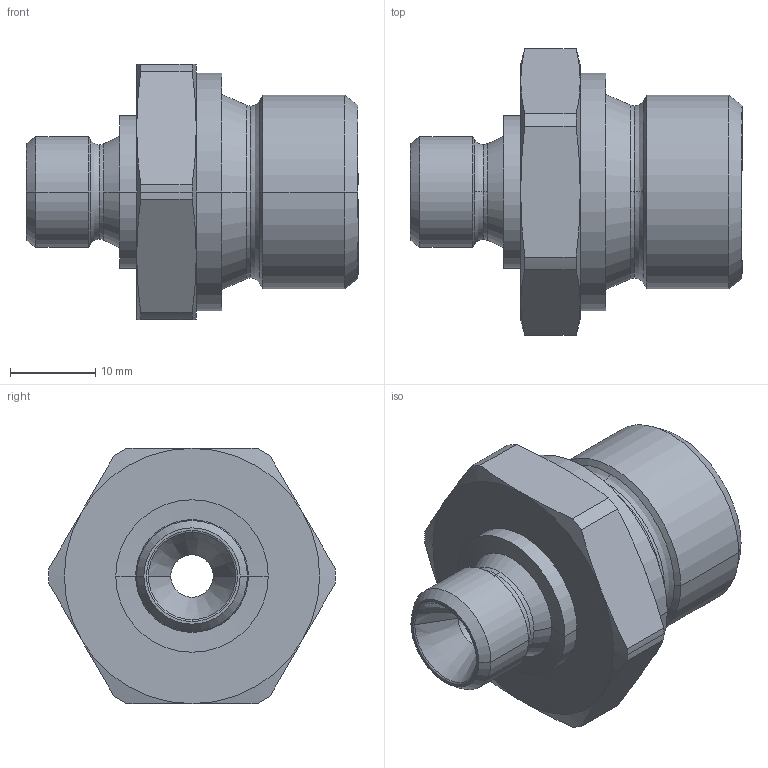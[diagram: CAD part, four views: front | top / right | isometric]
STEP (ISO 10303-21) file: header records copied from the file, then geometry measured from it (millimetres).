
FILE_DESCRIPTION((''),'2;1');
FILE_NAME('300533.stp','2006-09-11T08:16:20',(''),(''),'AutoCAD STEP 2000i','AutoCAD 2000i',', , ');
FILE_SCHEMA(('CONFIG_CONTROL_DESIGN'));
Length unit declared in the file: millimetre
Products named in the file (2): 300533.0; CHIAVE SMUSSATA#0
Assembly tree (1 placements, depth 2):
  300533.0
    CHIAVE SMUSSATA#0
Bounding box: 39 x 33.7 x 30 mm (x, y, z)
Volume: 10975.3 mm3; surface area: 5280.4 mm2
Topology: 1 solids, 1 shells, 76 faces, 178 edges, 106 vertices
Faces by surface type: cone 34, cylinder 20, plane 10, bspline 8, torus 4
Entity records: 2593 total; most frequent: CARTESIAN_POINT 762, DIRECTION 400, ORIENTED_EDGE 356, EDGE_CURVE 178, AXIS2_PLACEMENT_3D 176, VERTEX_POINT 106, CIRCLE 106, EDGE_LOOP 80
